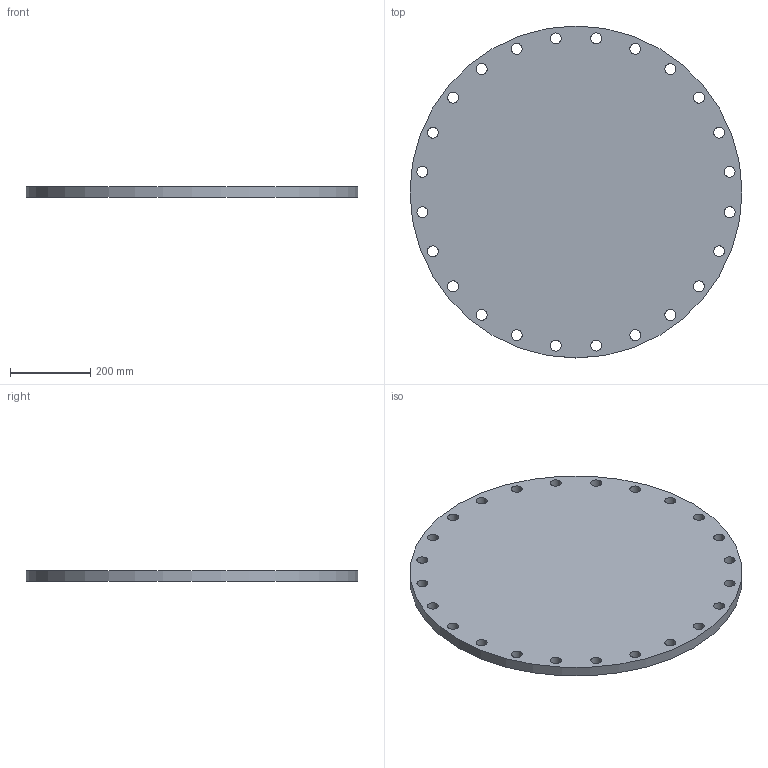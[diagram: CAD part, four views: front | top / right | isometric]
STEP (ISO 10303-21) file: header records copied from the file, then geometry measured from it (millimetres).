
FILE_DESCRIPTION(/* description */ (''),/* implementation_level */ '2;1');
FILE_NAME(/* name */ 'C:\Users\D\Documents\Inventor\HP\JIS\フランジ\JIS 5k bl ff\jis5k-bl-ff-650.stp',/* time_stamp */ '2024-09-12T16:49:11+09:00',/* author */ ('D'),/* organization */ (''),/* preprocessor_version */ 'ST-DEVELOPER v18',/* originating_system */ 'Autodesk Inventor 2020',/* authorisation */ '');
FILE_SCHEMA (('AUTOMOTIVE_DESIGN { 1 0 10303 214 3 1 1 }'));
Length unit declared in the file: millimetre
Products named in the file (1): jis5k-sop-rf-10
Bounding box: 825 x 825 x 26 mm (x, y, z)
Volume: 13541327.8 mm3; surface area: 1161957.3 mm2
Topology: 1 solids, 1 shells, 27 faces, 101 edges, 76 vertices
Faces by surface type: cylinder 25, plane 2
Full cylindrical faces by diameter (mm): 27 x24, 825 x1
Entity records: 1296 total; most frequent: DIRECTION 233, CARTESIAN_POINT 205, ORIENTED_EDGE 202, AXIS2_PLACEMENT_3D 104, EDGE_CURVE 101, CIRCLE 76, VERTEX_POINT 76, EDGE_LOOP 75
